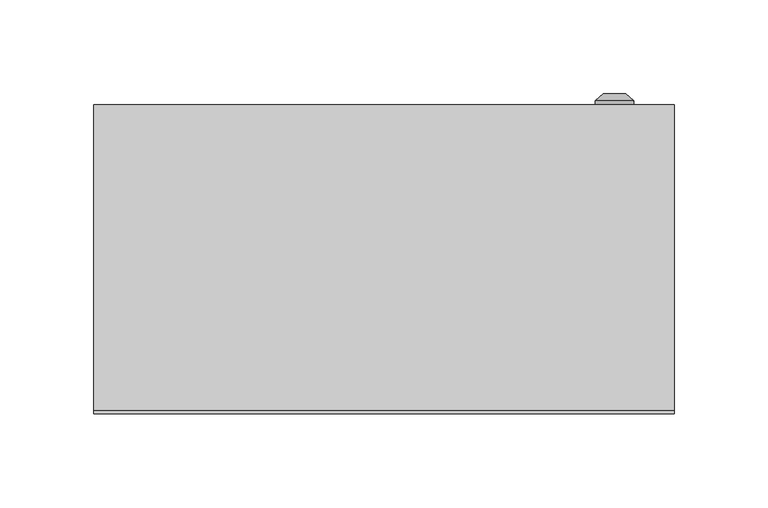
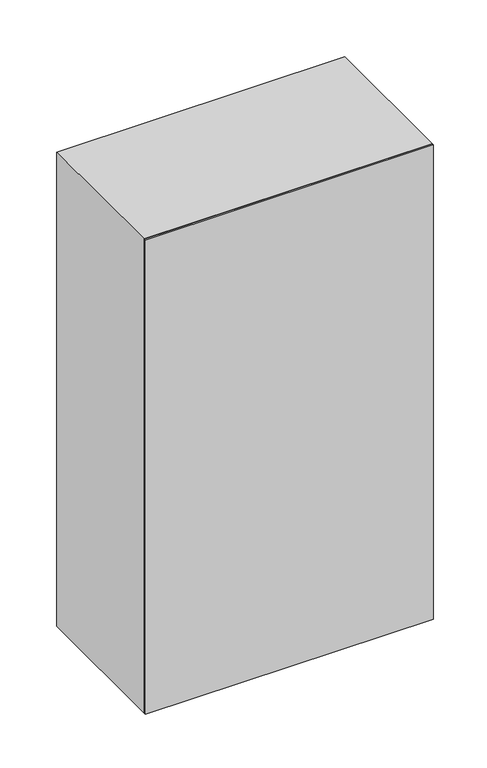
"""IFC4 building model written with IfcOpenShell, lengths in millimetres: proxy geometry, ЩУРН-3_12 : ЩУРН-3/12."""

from ifc_helpers import new_model, si_unit, point, frame, frame_2d, origin, origin_with_axes, place, context, project, spatial, polyline, circle_curve, trimmed, segment, composite_curve, outline, extrude, source, transform, mapped, element, save
from ifc_brep_helpers import plane_surface, cylinder_surface, revolved_surface, advanced_brep


def electrical_equipment_733eea28(model_context):
    return source(origin(), model_context, "Body", "SolidModel", [
        advanced_brep(
        [(112.669873, 165.0, 270.0), (133.330127, 165.0, 270.0), (123.0, 165.0, 270.0), (121.1080471, 171.0, 270.0), (124.8919529, 171.0, 270.0), (129.0, 171.0, 270.0), (117.0, 171.0, 270.0), (121.1080471, 169.9822294, 270.0), (124.8919529, 169.9822294, 270.0), (123.0, 169.9822294, 270.0), (112.669873, 167.366592, 270.0), (133.330127, 167.366592, 270.0)],
        [
            (0, 1, circle_curve(frame((123.0, 165.0, 270.0), z_axis=(0.0, -1.0, 0.0), x_axis=(1.0, 0.0, 0.0)), 10.330127)),
            (1, 2),
            (2, 0),
            (1, 0, circle_curve(frame((123.0, 165.0, 270.0), z_axis=(0.0, -1.0, 0.0), x_axis=(1.0, 0.0, 0.0)), 10.330127)),
            (3, 4, circle_curve(frame((123.0, 171.0, 270.0), z_axis=(0.0, -1.0, 0.0), x_axis=(1.0, 0.0, 0.0)), 1.8919529)),
            (4, 5),
            (5, 6, circle_curve(frame((123.0, 171.0, 270.0), z_axis=(0.0, 1.0, 0.0), x_axis=(1.0, 0.0, 0.0)), 6.0)),
            (6, 3),
            (4, 3, circle_curve(frame((123.0, 171.0, 270.0), z_axis=(0.0, -1.0, 0.0), x_axis=(1.0, 0.0, 0.0)), 1.8919529)),
            (6, 5, circle_curve(frame((123.0, 171.0, 270.0), z_axis=(0.0, 1.0, 0.0), x_axis=(1.0, 0.0, 0.0)), 6.0)),
            (7, 8, circle_curve(frame((123.0, 169.9822294, 270.0), z_axis=(0.0, -1.0, 0.0), x_axis=(1.0, 0.0, 0.0)), 1.8919529)),
            (8, 4),
            (3, 7),
            (8, 7, circle_curve(frame((123.0, 169.9822294, 270.0), z_axis=(0.0, -1.0, 0.0), x_axis=(1.0, 0.0, 0.0)), 1.8919529)),
            (9, 8),
            (7, 9),
            (10, 11, circle_curve(frame((123.0, 167.366592, 270.0), z_axis=(0.0, -1.0, 0.0), x_axis=(1.0, 0.0, 0.0)), 10.330127)),
            (11, 1),
            (0, 10),
            (11, 10, circle_curve(frame((123.0, 167.366592, 270.0), z_axis=(0.0, -1.0, 0.0), x_axis=(1.0, 0.0, 0.0)), 10.330127)),
            (5, 11),
            (10, 6),
        ],
        [
            plane_surface(frame((123.0, 165.0, 270.0), z_axis=(0.0, -1.0, 0.0), x_axis=(1.0, 0.0, 0.0))),
            plane_surface(frame((123.0, 171.0, 270.0), z_axis=(0.0, 1.0, 0.0), x_axis=(1.0, 0.0, 0.0))),
            revolved_surface(polyline([(124.8919529, 171.0, 270.0), (124.8919529, 169.9822294, 270.0)]), (123.0, 178.1348851, 270.0), (0.0, 1.0, 0.0)),
            plane_surface(frame((123.0, 169.9822294, 270.0), z_axis=(0.0, 1.0, 0.0), x_axis=(1.0, 0.0, 0.0))),
            cylinder_surface(frame((123.0, 178.1348851, 270.0), z_axis=(0.0, 1.0, 0.0), x_axis=(1.0, 0.0, 0.0)), 10.330127),
            revolved_surface(polyline([(133.330127, 167.366592, 270.0), (129.0, 171.0, 270.0)]), (123.0, 178.1348851, 270.0), (0.0, 1.0, 0.0)),
        ],
        [
            (0, [[1, 2, 3]]),
            (0, [[4, -3, -2]]),
            (1, [[5, 6, 7, 8]]),
            (1, [[9, -8, 10, -6]]),
            (2, [[11, 12, -5, 13]]),
            (2, [[14, -13, -9, -12]]),
            (3, [[15, -11, 16]]),
            (3, [[-16, -14, -15]]),
            (4, [[17, 18, -1, 19]]),
            (4, [[20, -19, -4, -18]]),
            (5, [[-7, 21, -17, 22]]),
            (5, [[-10, -22, -20, -21]]),
        ],
    ),
        extrude(outline(polyline([(524.0, -139.0), (16.0, -139.0), (16.0, 139.0), (524.0, 139.0), (524.0, -139.0)]), holes=[composite_curve([segment(polyline([(387.5, -40.0), (387.5, -10.0), (387.5, 20.0)]), True, "CONTINUOUS"), segment(trimmed(circle_curve(frame_2d((377.5, 20.0)), 10.0), [point((387.5, 20.0))], [point((377.5, 30.0))], True, "CARTESIAN"), True, "CONTINUOUS"), segment(polyline([(377.5, 30.0), (347.5, 30.0)]), True, "CONTINUOUS"), segment(trimmed(circle_curve(frame_2d((347.5, 20.0)), 10.0), [point((347.5, 30.0))], [point((337.5, 20.0))], True, "CARTESIAN"), True, "CONTINUOUS"), segment(polyline([(337.5, 20.0), (337.5, -40.0)]), True, "CONTINUOUS"), segment(trimmed(circle_curve(frame_2d((347.5, -40.0)), 10.0), [point((337.5, -40.0))], [point((347.5, -50.0))], True, "CARTESIAN"), True, "CONTINUOUS"), segment(polyline([(347.5, -50.0), (377.5, -50.0)]), True, "CONTINUOUS"), segment(trimmed(circle_curve(frame_2d((377.5, -40.0)), 10.0), [point((377.5, -50.0))], [point((387.5, -40.0))], True, "CARTESIAN"), True, "CONTINUOUS")], self_intersect=False)]), frame((0.0, 163.0, 0.0), z_axis=(0.0, 1.0, 0.0), x_axis=(0.0, 0.0, 1.0)), (0.0, 0.0, 1.0), 2.0),
        extrude(outline(polyline([(540.0, -155.0033905), (0.0, -155.0033905), (0.0, 154.9966095), (540.0, 154.9966095), (540.0, -155.0033905)]), holes=[polyline([(525.0, -140.0), (525.0, 140.0), (15.0, 140.0), (15.0, -140.0), (525.0, -140.0)])]), frame((0.0, 2.0, 0.0), z_axis=(0.0, 1.0, 0.0), x_axis=(0.0, 0.0, 1.0)), (0.0, 0.0, 1.0), 163.0),
        extrude(outline(polyline([(155.0, 0.0), (-155.0, 0.0), (-155.0, 2.0), (155.0, 2.0), (155.0, 0.0)])), origin_with_axes(), (0.0, 0.0, 1.0), 540.0),
    ])


if __name__ == "__main__":
    model = new_model("IFC4")
    model_context = context("Model", 3, world=origin())
    ifc_project = project(units=[si_unit("LENGTHUNIT", "METRE", prefix="MILLI")], contexts=[model_context])
    site = spatial("IfcSite", under=ifc_project)
    building = spatial("IfcBuilding", under=site)
    placement = place(None, origin())
    electrical_equipment_shape = electrical_equipment_733eea28(model_context)
    element("IfcBuildingElementProxy", 1, Name="ЩУРН-3_12 : ЩУРН-3/12", ObjectType="ЩУРН-3_12 : ЩУРН-3/12", at=placement, inside=building, context=model_context, shape_type="MappedRepresentation", body=[
        mapped(electrical_equipment_shape, transform((0.0, 0.0, 0.0), x_axis=(1.0, 0.0, 0.0), y_axis=(0.0, 1.0, 0.0), z_axis=(0.0, 0.0, 1.0))),
    ])
    save(model, "model.ifc")
